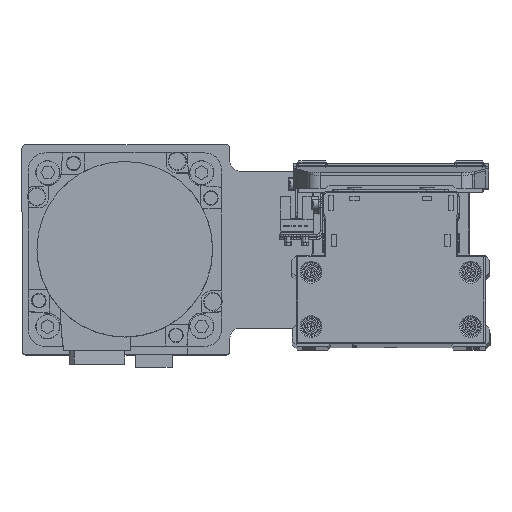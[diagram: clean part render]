
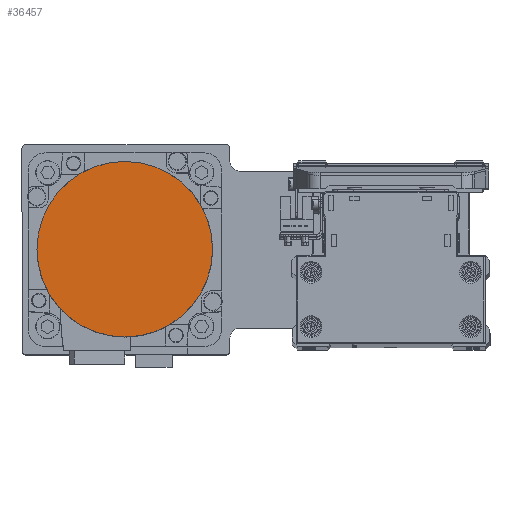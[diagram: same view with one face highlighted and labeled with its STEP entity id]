
A CAD part, top view. The second image highlights one B-rep face of the part: STEP entity #36457.
In plain terms, the highlighted planar face has unit normal (0, 0, 1) as drawn and (0, 0, -1) by its records, which use the part's own axes.
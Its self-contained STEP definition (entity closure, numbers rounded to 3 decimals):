
#367 = ORIENTED_EDGE ( 'NONE', *, *, #2977, .F. ) ;
#2977 = EDGE_CURVE ( 'NONE', #25538, #6850, #3642, .T. ) ;
#3642 = CIRCLE ( 'NONE', #8803, 36.3 ) ;
#5081 = DIRECTION ( 'NONE',  ( 0., 0., 1. ) ) ;
#5571 = DIRECTION ( 'NONE',  ( 0., -1., 0. ) ) ;
#6850 = VERTEX_POINT ( 'NONE', #35749 ) ;
#7975 = CARTESIAN_POINT ( 'NONE',  ( 0., 36.3, -122.2 ) ) ;
#8803 = AXIS2_PLACEMENT_3D ( 'NONE', #32777, #5081, #17422 ) ;
#8846 = DIRECTION ( 'NONE',  ( 0., 0., 1. ) ) ;
#10570 = AXIS2_PLACEMENT_3D ( 'NONE', #20943, #33257, #5571 ) ;
#11883 = FACE_OUTER_BOUND ( 'NONE', #22985, .T. ) ;
#12845 = AXIS2_PLACEMENT_3D ( 'NONE', #36555, #8846, #21202 ) ;
#17422 = DIRECTION ( 'NONE',  ( 0., 1., 0. ) ) ;
#20943 = CARTESIAN_POINT ( 'NONE',  ( 0., 0., -122.2 ) ) ;
#21202 = DIRECTION ( 'NONE',  ( 1., 0., 0. ) ) ;
#22985 = EDGE_LOOP ( 'NONE', ( #367, #31788 ) ) ;
#24252 = PLANE ( 'NONE',  #12845 ) ;
#25538 = VERTEX_POINT ( 'NONE', #7975 ) ;
#28006 = CIRCLE ( 'NONE', #10570, 36.3 ) ;
#30417 = EDGE_CURVE ( 'NONE', #6850, #25538, #28006, .T. ) ;
#31788 = ORIENTED_EDGE ( 'NONE', *, *, #30417, .F. ) ;
#32777 = CARTESIAN_POINT ( 'NONE',  ( 0., 0., -122.2 ) ) ;
#33257 = DIRECTION ( 'NONE',  ( 0., 0., 1. ) ) ;
#35749 = CARTESIAN_POINT ( 'NONE',  ( 0., -36.3, -122.2 ) ) ;
#36457 = ADVANCED_FACE ( 'NONE', ( #11883 ), #24252, .F. ) ;
#36555 = CARTESIAN_POINT ( 'NONE',  ( 0., 0., -122.2 ) ) ;
